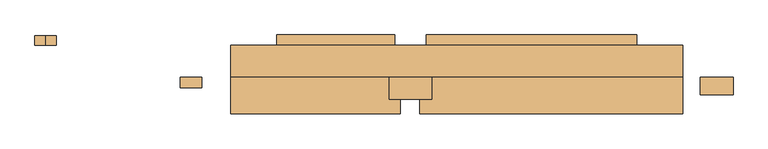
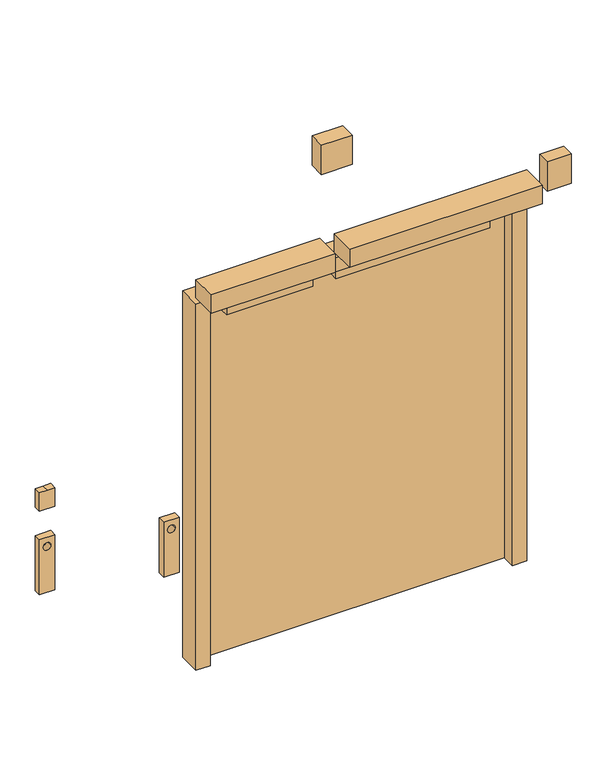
"""IFC4 building model written with IfcOpenShell, lengths in millimetres: door geometry, LOC_Pardörr assymetrisk : LOC_Pardörr assymetrisk."""

from ifc_helpers import new_model, si_unit, point, frame, frame_2d, origin, origin_with_axes, place, context, project, spatial, polyline, circle_curve, trimmed, segment, composite_curve, outline, extrude, source, transform, mapped, element, save


def door_7ab25be9(model_context):
    return source(origin(), model_context, "Body", "SweptSolid", [
        extrude(outline(polyline([(675.0, 60.0), (-120.0, 60.0), (-120.0, 99.5123201), (675.0, 99.5123201), (675.0, 60.0)])), frame((0.0, 0.0, 1864.2665851), z_axis=(0.0, 0.0, 1.0), x_axis=(1.0, 0.0, 0.0)), (0.0, 0.0, 1.0), 40.0),
        extrude(outline(polyline([(-240.0, 60.0), (-685.4190101, 60.0), (-685.4190101, 99.5123201), (-240.0, 99.5123201), (-240.0, 60.0)])), frame((0.0, 0.0, 1864.2665851), z_axis=(0.0, 0.0, 1.0), x_axis=(1.0, 0.0, 0.0)), (0.0, 0.0, 1.0), 40.0),
        extrude(outline(polyline([(675.0, -31.5696103), (-120.0, -31.5696103), (-120.0, 10.0), (675.0, 10.0), (675.0, -31.5696103)])), frame((0.0, 0.0, 1864.2665851), z_axis=(0.0, 0.0, 1.0), x_axis=(1.0, 0.0, 0.0)), (0.0, 0.0, 1.0), 40.0),
        extrude(outline(polyline([(-240.0, -31.5696103), (-685.4190101, -31.5696103), (-685.4190101, 10.0), (-240.0, 10.0), (-240.0, -31.5696103)])), frame((0.0, 0.0, 1864.2665851), z_axis=(0.0, 0.0, 1.0), x_axis=(1.0, 0.0, 0.0)), (0.0, 0.0, 1.0), 40.0),
        extrude(outline(polyline([(-100.0, -144.1564066), (-260.0, -144.1564066), (-260.0, -60.0), (-100.0, -60.0), (-100.0, -144.1564066)])), frame((0.0, 0.0, 2550.0), z_axis=(0.0, 0.0, 1.0), x_axis=(1.0, 0.0, 0.0)), (0.0, 0.0, 1.0), 160.0),
        extrude(outline(polyline([(1156.8324144, -1560.0), (1156.8324144, -1600.0), (1055.0, -1600.0), (1055.0, -1520.0), (1156.8324144, -1520.0), (1156.8324144, -1560.0)])), frame((0.0, 60.0, 0.0), z_axis=(0.0, 1.0, 0.0), x_axis=(0.0, 0.0, 1.0)), (0.0, 0.0, 1.0), 37.1211251),
        extrude(outline(polyline([(1040.0, -126.6811453), (915.9876923, -126.6811453), (915.9876923, -60.0), (1040.0, -60.0), (1040.0, -126.6811453)])), frame((0.0, 0.0, 2037.7010948), z_axis=(0.0, 0.0, 1.0), x_axis=(1.0, 0.0, 0.0)), (0.0, 0.0, 1.0), 160.0),
        extrude(outline(polyline([(900.0, -970.0), (900.0, -1050.0), (600.0, -1050.0), (600.0, -970.0), (900.0, -970.0)]), holes=[composite_curve([segment(trimmed(circle_curve(frame_2d((850.0, -1010.0)), 20.0), [point((850.0, -1030.0))], [point((850.0, -990.0))], True, "CARTESIAN"), True, "CONTINUOUS"), segment(trimmed(circle_curve(frame_2d((850.0, -1010.0)), 20.0), [point((850.0, -990.0))], [point((850.0, -1030.0))], True, "CARTESIAN"), True, "CONTINUOUS")], self_intersect=False)]), frame((0.0, -99.9276756, 0.0), z_axis=(0.0, 1.0, 0.0), x_axis=(0.0, 0.0, 1.0)), (0.0, 0.0, 1.0), 39.9276756),
        extrude(outline(polyline([(900.0, -1600.0), (600.0, -1600.0), (600.0, -1520.0), (900.0, -1520.0), (900.0, -1600.0)]), holes=[composite_curve([segment(trimmed(circle_curve(frame_2d((850.0915963, -1560.0)), 20.0), [point((850.0915963, -1580.0))], [point((850.0915963, -1540.0))], True, "CARTESIAN"), True, "CONTINUOUS"), segment(trimmed(circle_curve(frame_2d((850.0915963, -1560.0)), 20.0), [point((850.0915963, -1540.0))], [point((850.0915963, -1580.0))], True, "CARTESIAN"), True, "CONTINUOUS")], self_intersect=False)]), frame((0.0, 60.0, 0.0), z_axis=(0.0, 1.0, 0.0), x_axis=(0.0, 0.0, 1.0)), (0.0, 0.0, 1.0), 37.1211251),
        extrude(outline(polyline([(850.0, -198.0061913), (-145.0, -198.0061913), (-145.0, -60.0), (850.0, -60.0), (850.0, -198.0061913)])), frame((0.0, 0.0, 2035.3458836), z_axis=(0.0, 0.0, 1.0), x_axis=(1.0, 0.0, 0.0)), (0.0, 0.0, 1.0), 100.0),
        extrude(outline(polyline([(-218.7694663, -198.0061913), (-860.0, -198.0061913), (-860.0, -60.0), (-218.7694663, -60.0), (-218.7694663, -198.0061913)])), frame((0.0, 0.0, 2035.3458836), z_axis=(0.0, 0.0, 1.0), x_axis=(1.0, 0.0, 0.0)), (0.0, 0.0, 1.0), 100.0),
        extrude(outline(polyline([(775.0, 10.0), (-785.0, 10.0), (-785.0, 60.0), (775.0, 60.0), (775.0, 10.0)])), origin_with_axes(), (0.0, 0.0, 1.0), 1925.0),
        extrude(outline(polyline([(2000.0, 850.0), (2000.0, -860.0), (0.0, -860.0), (0.0, -785.0), (1925.0, -785.0), (1925.0, 775.0), (0.0, 775.0), (0.0, 850.0), (2000.0, 850.0)])), frame((0.0, -60.0, 0.0), z_axis=(0.0, 1.0, 0.0), x_axis=(0.0, 0.0, 1.0)), (0.0, 0.0, 1.0), 120.0),
    ])


if __name__ == "__main__":
    model = new_model("IFC4")
    model_context = context("Model", 3, world=origin())
    ifc_project = project(units=[si_unit("LENGTHUNIT", "METRE", prefix="MILLI")], contexts=[model_context])
    site = spatial("IfcSite", under=ifc_project)
    building = spatial("IfcBuilding", under=site)
    placement = place(None, origin())
    door_shape = door_7ab25be9(model_context)
    element("IfcDoor", 1, ObjectType="LOC_Pardörr assymetrisk : LOC_Pardörr assymetrisk", at=placement, inside=building, context=model_context, shape_type="MappedRepresentation", body=[
        mapped(door_shape, transform((0.0, 0.0, 0.0), x_axis=(1.0, 0.0, 0.0), y_axis=(0.0, 1.0, 0.0), z_axis=(0.0, 0.0, 1.0))),
    ])
    save(model, "model.ifc")
